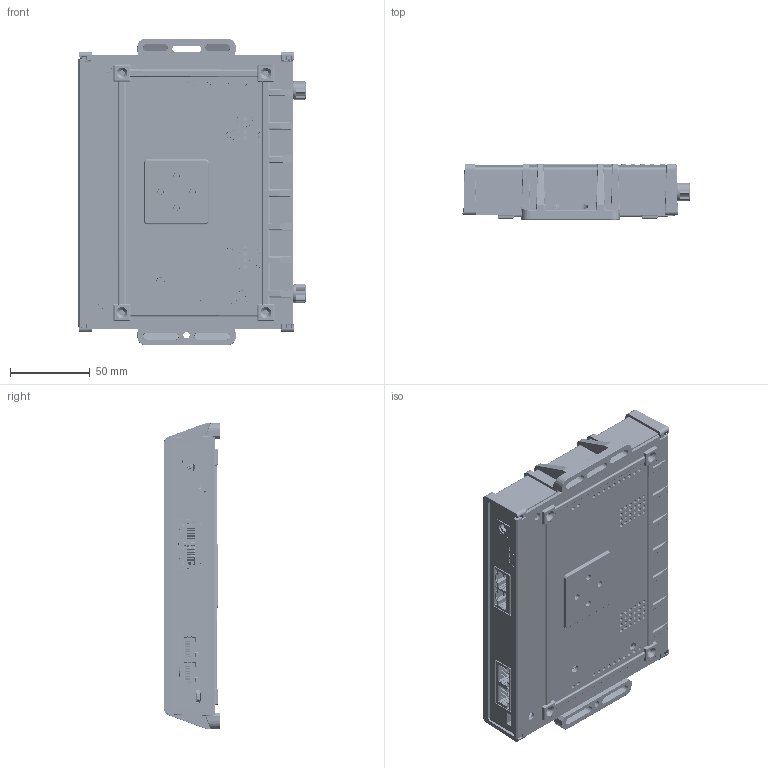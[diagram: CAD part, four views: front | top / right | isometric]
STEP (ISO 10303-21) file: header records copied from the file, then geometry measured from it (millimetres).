
FILE_DESCRIPTION (( 'STEP AP203' ), '1' );
FILE_NAME ('50002072-01 REV D.STEP', '2024-04-08T18:48:32', ( '' ), ( '' ), 'SwSTEP 2.0', 'SolidWorks 2022', '' );
FILE_SCHEMA (( 'CONFIG_CONTROL_DESIGN' ));
Length unit declared in the file: inch
Products named in the file (1): 50002072-01 REV D
Bounding box: 142.02 x 35 x 191.72 mm (x, y, z)
Surface area: 216045 mm2 (no closed solid volume)
Topology: 0 solids, 35 shells, 6826 faces, 17329 edges, 10551 vertices
Faces by surface type: bspline 2716, plane 1878, cylinder 1427, cone 434, torus 241, sphere 130
Entity records: 237538 total; most frequent: CARTESIAN_POINT 100033, ORIENTED_EDGE 34346, DIRECTION 19121, EDGE_CURVE 17184, VERTEX_POINT 10551, B_SPLINE_CURVE_WITH_KNOTS 8361, EDGE_LOOP 7247, AXIS2_PLACEMENT_3D 6985
